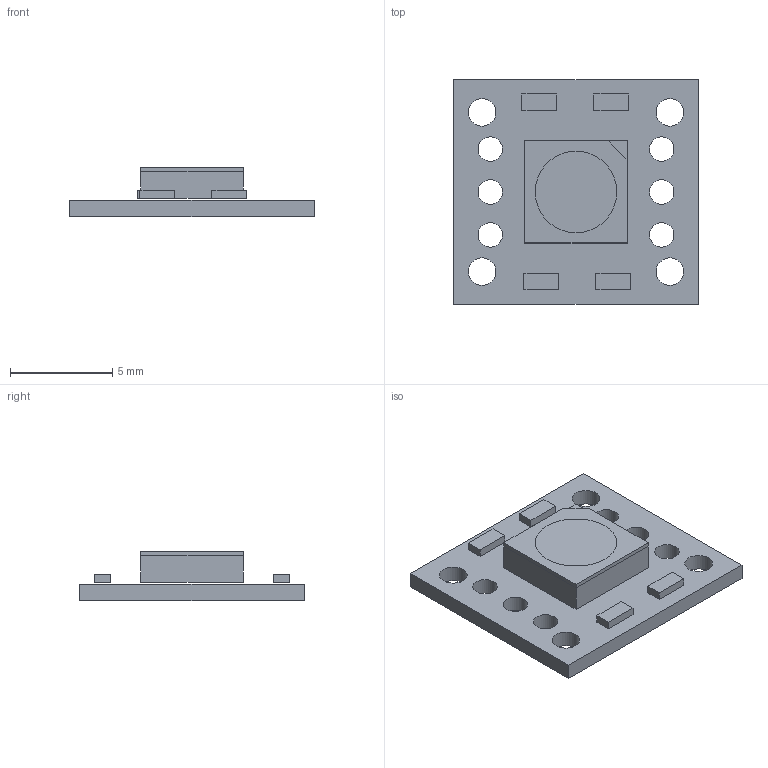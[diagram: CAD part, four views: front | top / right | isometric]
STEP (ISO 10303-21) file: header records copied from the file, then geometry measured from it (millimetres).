
FILE_DESCRIPTION(('Open CASCADE Model'),'2;1');
FILE_NAME('Open CASCADE Shape Model','2013-12-12T03:41:27',('Author'),( 'Open CASCADE'),'Open CASCADE STEP processor 6.2','Open CASCADE 6.2' ,'Unknown');
FILE_SCHEMA(('AUTOMOTIVE_DESIGN { 1 0 10303 214 1 1 1 1 }'));
Length unit declared in the file: millimetre
Products named in the file (15): PCB; Board; R2; 602744432; Extruded; C1; LED1; 602435248; 551153344; Cylinder; 602746480; C2; R1
Assembly tree (17 placements, depth 4):
  PCB
    Board
    R2
      602744432
        Extruded
    C1
      602744432
        Extruded
    LED1
      602435248
        Extruded
      551153344
        Cylinder
      602746480
        Extruded
    C2
      602744432
        Extruded
    R1
      602744432
        Extruded
Bounding box: 12 x 11 x 2.41 mm (x, y, z)
Volume: 139.2 mm3; surface area: 484.5 mm2
Topology: 8 solids, 8 shells, 56 faces, 120 edges, 80 vertices
Faces by surface type: plane 45, cylinder 11
Full cylindrical faces by diameter (mm): 1.2 x6, 1.35 x4, 4 x1
Entity records: 2577 total; most frequent: CARTESIAN_POINT 498, DIRECTION 362, LINE 206, VECTOR 206, ORIENTED_EDGE 168, PCURVE 168, DEFINITIONAL_REPRESENTATION 168, EDGE_CURVE 84
